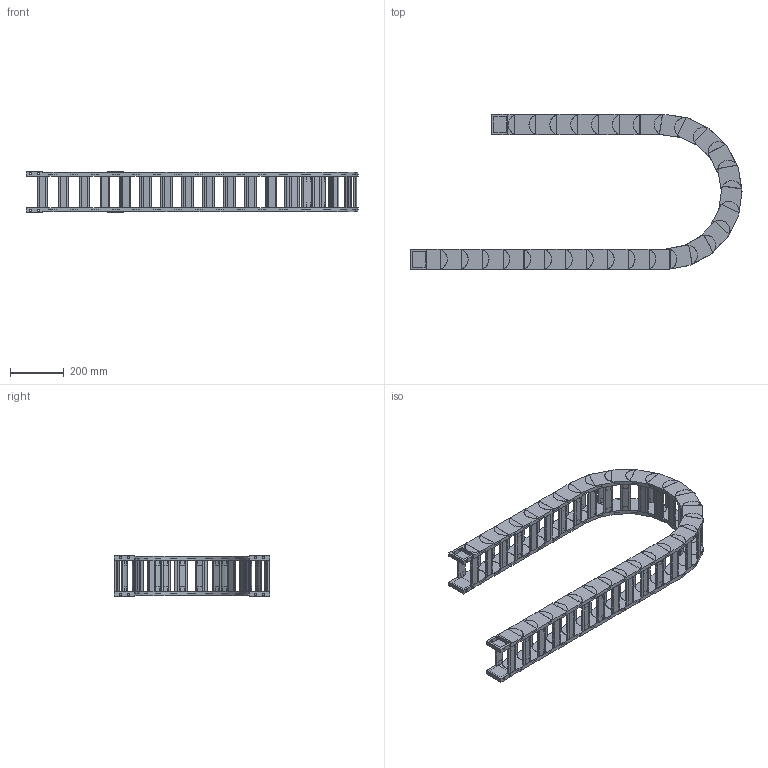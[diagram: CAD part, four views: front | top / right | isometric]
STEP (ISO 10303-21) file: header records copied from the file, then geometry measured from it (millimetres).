
FILE_DESCRIPTION((''),'2;1');
FILE_NAME('HD55-R250-ZPT_ASM','2022-06-17T17:24:41',('admin'),(''),'CREO PARAMETRIC BY PTC INC, 2021164','CREO PARAMETRIC BY PTC INC, 2021164','');
FILE_SCHEMA(('CONFIG_CONTROL_DESIGN','GEOMETRIC_VALIDATION_PROPERTIES_MIM'));
Length unit declared in the file: millimetre
Products named in the file (6): HD-55; 55-500001; HD55_ASM; H55-T1; H55-T2; HD55-R250-ZPT_ASM
Assembly tree (34 placements, depth 3):
  HD55-R250-ZPT_ASM
    HD55_ASM  x28
      HD-55
      55-500001
    H55-T1
    H55-T2
    55-500001  x2
Bounding box: 1233.09 x 575.89 x 149.6 mm (x, y, z)
Volume: 7389090.4 mm3; surface area: 2290437.3 mm2
Topology: 120 solids, 120 shells, 1982 faces, 5086 edges, 3468 vertices
Faces by surface type: plane 1640, cylinder 342
Entity records: 8831 total; most frequent: CARTESIAN_POINT 1304, DIRECTION 1266, ORIENTED_EDGE 1172, EDGE_CURVE 586, AXIS2_PLACEMENT_3D 424, VECTOR 418, LINE 418, VERTEX_POINT 396
